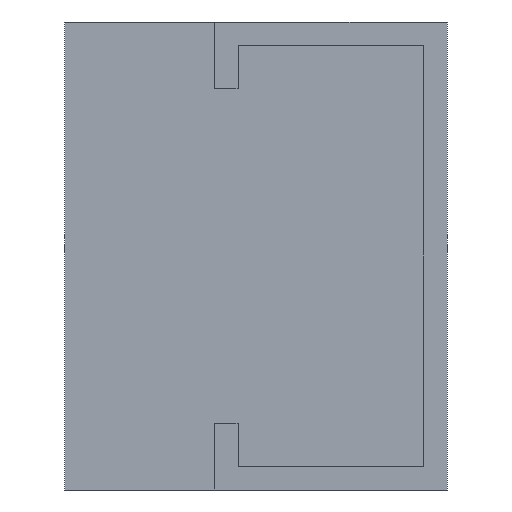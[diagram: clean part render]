
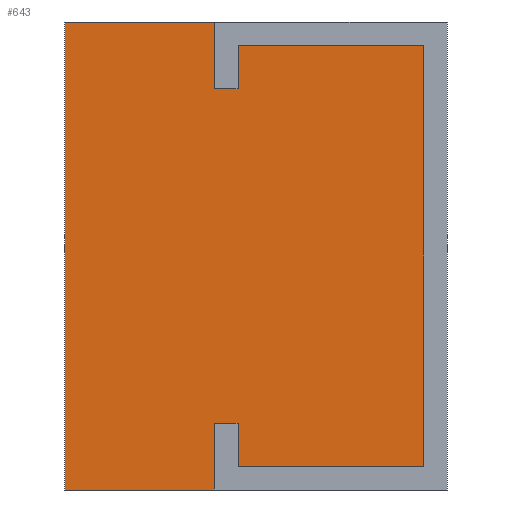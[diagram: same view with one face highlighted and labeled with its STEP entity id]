
A CAD part, left-side view. The second image highlights one B-rep face of the part: STEP entity #643.
In plain terms, the highlighted planar face has unit normal (-1, 0, 0).
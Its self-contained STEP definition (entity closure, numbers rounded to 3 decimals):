
#23 = EDGE_CURVE ( 'NONE', #584, #79, #422, .T. ) ;
#27 = LINE ( 'NONE', #158, #745 ) ;
#70 = DIRECTION ( 'NONE',  ( 0., 0., -1. ) ) ;
#79 = VERTEX_POINT ( 'NONE', #247 ) ;
#81 = DIRECTION ( 'NONE',  ( 0., 0., 1. ) ) ;
#94 = ORIENTED_EDGE ( 'NONE', *, *, #532, .T. ) ;
#154 = CARTESIAN_POINT ( 'NONE',  ( -16.3, 16.3, -22.8 ) ) ;
#158 = CARTESIAN_POINT ( 'NONE',  ( -16.3, -21., -22.8 ) ) ;
#160 = EDGE_LOOP ( 'NONE', ( #615, #505, #94, #191 ) ) ;
#179 = VECTOR ( 'NONE', #721, 1000. ) ;
#187 = VECTOR ( 'NONE', #232, 1000. ) ;
#190 = CARTESIAN_POINT ( 'NONE',  ( -16.3, -21., -72.338 ) ) ;
#191 = ORIENTED_EDGE ( 'NONE', *, *, #193, .F. ) ;
#193 = EDGE_CURVE ( 'NONE', #420, #510, #693, .T. ) ;
#232 = DIRECTION ( 'NONE',  ( 0., 1., 0. ) ) ;
#247 = CARTESIAN_POINT ( 'NONE',  ( -16.3, -18.7, 22.8 ) ) ;
#267 = PLANE ( 'NONE',  #439 ) ;
#281 = DIRECTION ( 'NONE',  ( 0., -1., 0. ) ) ;
#295 = CARTESIAN_POINT ( 'NONE',  ( -16.3, -21., 22.8 ) ) ;
#322 = FACE_OUTER_BOUND ( 'NONE', #160, .T. ) ;
#343 = CARTESIAN_POINT ( 'NONE',  ( -16.3, 16.3, -72.338 ) ) ;
#370 = CARTESIAN_POINT ( 'NONE',  ( -16.3, -18.7, -22.8 ) ) ;
#420 = VERTEX_POINT ( 'NONE', #154 ) ;
#422 = LINE ( 'NONE', #477, #179 ) ;
#438 = VECTOR ( 'NONE', #81, 1000. ) ;
#439 = AXIS2_PLACEMENT_3D ( 'NONE', #190, #509, #70 ) ;
#460 = EDGE_CURVE ( 'NONE', #420, #584, #27, .T. ) ;
#477 = CARTESIAN_POINT ( 'NONE',  ( -16.3, -18.7, 22.8 ) ) ;
#479 = CARTESIAN_POINT ( 'NONE',  ( -16.3, 16.3, 22.8 ) ) ;
#505 = ORIENTED_EDGE ( 'NONE', *, *, #23, .T. ) ;
#509 = DIRECTION ( 'NONE',  ( 1., 0., 0. ) ) ;
#510 = VERTEX_POINT ( 'NONE', #479 ) ;
#532 = EDGE_CURVE ( 'NONE', #79, #510, #668, .T. ) ;
#584 = VERTEX_POINT ( 'NONE', #370 ) ;
#615 = ORIENTED_EDGE ( 'NONE', *, *, #460, .T. ) ;
#643 = ADVANCED_FACE ( 'NONE', ( #322 ), #267, .F. ) ;
#668 = LINE ( 'NONE', #295, #187 ) ;
#693 = LINE ( 'NONE', #343, #438 ) ;
#721 = DIRECTION ( 'NONE',  ( 0., 0., 1. ) ) ;
#745 = VECTOR ( 'NONE', #281, 1000. ) ;
